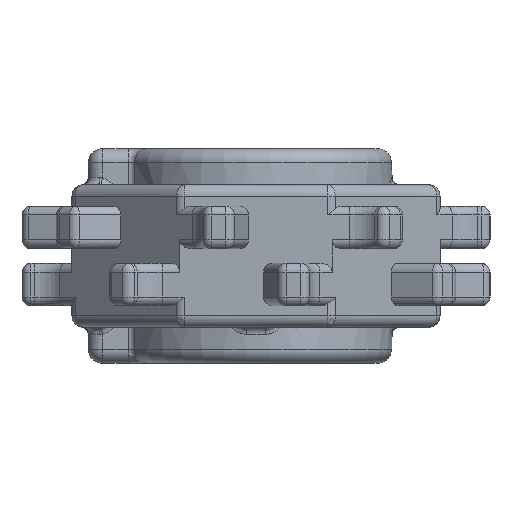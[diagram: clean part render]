
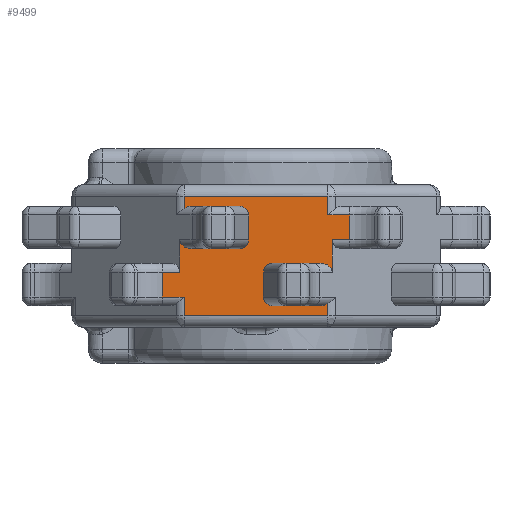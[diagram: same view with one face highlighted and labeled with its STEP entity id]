
A CAD part, left-side view. The second image highlights one B-rep face of the part: STEP entity #9499.
In plain terms, the highlighted planar face has unit normal (-1, 0, 0).
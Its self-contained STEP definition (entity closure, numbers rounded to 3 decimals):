
#8622=ELLIPSE('',#26625,1.768,1.25);
#8623=ELLIPSE('',#26626,1.314,1.25);
#8624=ELLIPSE('',#26627,1.314,1.25);
#8625=ELLIPSE('',#26628,1.768,1.25);
#8626=ELLIPSE('',#26629,1.768,1.25);
#8627=ELLIPSE('',#26630,1.314,1.25);
#8628=ELLIPSE('',#26631,1.314,1.25);
#8629=ELLIPSE('',#26632,1.768,1.25);
#9499=ADVANCED_FACE('',(#10931),#10652,.T.);
#10652=PLANE('',#26633);
#10931=FACE_OUTER_BOUND('',#12099,.T.);
#12099=EDGE_LOOP('',(#14604,#14605,#14606,#14607,#14608,#14609,#14610,#14611,
#14612,#14613,#14614,#14615,#14616,#14617,#14618,#14619,#14620,#14621,#14622,
#14623,#14624,#14625,#14626,#14627,#14628,#14629,#14630,#14631));
#14604=ORIENTED_EDGE('',*,*,#21448,.T.);
#14605=ORIENTED_EDGE('',*,*,#21449,.T.);
#14606=ORIENTED_EDGE('',*,*,#21450,.T.);
#14607=ORIENTED_EDGE('',*,*,#21451,.T.);
#14608=ORIENTED_EDGE('',*,*,#21345,.T.);
#14609=ORIENTED_EDGE('',*,*,#21452,.T.);
#14610=ORIENTED_EDGE('',*,*,#21453,.T.);
#14611=ORIENTED_EDGE('',*,*,#21454,.T.);
#14612=ORIENTED_EDGE('',*,*,#21455,.T.);
#14613=ORIENTED_EDGE('',*,*,#21456,.T.);
#14614=ORIENTED_EDGE('',*,*,#21457,.T.);
#14615=ORIENTED_EDGE('',*,*,#21458,.F.);
#14616=ORIENTED_EDGE('',*,*,#21459,.T.);
#14617=ORIENTED_EDGE('',*,*,#21447,.F.);
#14618=ORIENTED_EDGE('',*,*,#21460,.T.);
#14619=ORIENTED_EDGE('',*,*,#21461,.T.);
#14620=ORIENTED_EDGE('',*,*,#21462,.T.);
#14621=ORIENTED_EDGE('',*,*,#21463,.T.);
#14622=ORIENTED_EDGE('',*,*,#21464,.T.);
#14623=ORIENTED_EDGE('',*,*,#21465,.T.);
#14624=ORIENTED_EDGE('',*,*,#21466,.T.);
#14625=ORIENTED_EDGE('',*,*,#21467,.T.);
#14626=ORIENTED_EDGE('',*,*,#21468,.T.);
#14627=ORIENTED_EDGE('',*,*,#21469,.T.);
#14628=ORIENTED_EDGE('',*,*,#21470,.T.);
#14629=ORIENTED_EDGE('',*,*,#21471,.F.);
#14630=ORIENTED_EDGE('',*,*,#21472,.T.);
#14631=ORIENTED_EDGE('',*,*,#21473,.T.);
#19833=VERTEX_POINT('',#34222);
#19834=VERTEX_POINT('',#34273);
#19895=VERTEX_POINT('',#34745);
#19918=VERTEX_POINT('',#34792);
#19919=VERTEX_POINT('',#34796);
#19920=VERTEX_POINT('',#34797);
#19921=VERTEX_POINT('',#34799);
#19922=VERTEX_POINT('',#34801);
#19923=VERTEX_POINT('',#34804);
#19924=VERTEX_POINT('',#34806);
#19925=VERTEX_POINT('',#34808);
#19926=VERTEX_POINT('',#34810);
#19927=VERTEX_POINT('',#34812);
#19928=VERTEX_POINT('',#34814);
#19929=VERTEX_POINT('',#34816);
#19930=VERTEX_POINT('',#34819);
#19931=VERTEX_POINT('',#34821);
#19932=VERTEX_POINT('',#34823);
#19933=VERTEX_POINT('',#34825);
#19934=VERTEX_POINT('',#34827);
#19935=VERTEX_POINT('',#34829);
#19936=VERTEX_POINT('',#34831);
#19937=VERTEX_POINT('',#34833);
#19938=VERTEX_POINT('',#34835);
#19939=VERTEX_POINT('',#34837);
#19940=VERTEX_POINT('',#34839);
#19941=VERTEX_POINT('',#34841);
#19942=VERTEX_POINT('',#34843);
#21345=EDGE_CURVE('',#19834,#19833,#24000,.T.);
#21447=EDGE_CURVE('',#19918,#19895,#24060,.T.);
#21448=EDGE_CURVE('',#19919,#19920,#24061,.T.);
#21449=EDGE_CURVE('',#19920,#19921,#24062,.T.);
#21450=EDGE_CURVE('',#19921,#19922,#24063,.T.);
#21451=EDGE_CURVE('',#19922,#19834,#24064,.T.);
#21452=EDGE_CURVE('',#19833,#19923,#24065,.T.);
#21453=EDGE_CURVE('',#19923,#19924,#8622,.T.);
#21454=EDGE_CURVE('',#19924,#19925,#24066,.T.);
#21455=EDGE_CURVE('',#19925,#19926,#8623,.T.);
#21456=EDGE_CURVE('',#19926,#19927,#24067,.T.);
#21457=EDGE_CURVE('',#19927,#19928,#8624,.T.);
#21458=EDGE_CURVE('',#19929,#19928,#24068,.T.);
#21459=EDGE_CURVE('',#19929,#19895,#8625,.T.);
#21460=EDGE_CURVE('',#19918,#19930,#24069,.T.);
#21461=EDGE_CURVE('',#19930,#19931,#24070,.T.);
#21462=EDGE_CURVE('',#19931,#19932,#24071,.T.);
#21463=EDGE_CURVE('',#19932,#19933,#24072,.T.);
#21464=EDGE_CURVE('',#19933,#19934,#24073,.T.);
#21465=EDGE_CURVE('',#19934,#19935,#24074,.T.);
#21466=EDGE_CURVE('',#19935,#19936,#8626,.T.);
#21467=EDGE_CURVE('',#19936,#19937,#24075,.T.);
#21468=EDGE_CURVE('',#19937,#19938,#8627,.T.);
#21469=EDGE_CURVE('',#19938,#19939,#24076,.T.);
#21470=EDGE_CURVE('',#19939,#19940,#8628,.T.);
#21471=EDGE_CURVE('',#19941,#19940,#24077,.T.);
#21472=EDGE_CURVE('',#19941,#19942,#8629,.T.);
#21473=EDGE_CURVE('',#19942,#19919,#24078,.T.);
#24000=LINE('',#34272,#25300);
#24060=LINE('',#34793,#25360);
#24061=LINE('',#34795,#25361);
#24062=LINE('',#34798,#25362);
#24063=LINE('',#34800,#25363);
#24064=LINE('',#34802,#25364);
#24065=LINE('',#34803,#25365);
#24066=LINE('',#34807,#25366);
#24067=LINE('',#34811,#25367);
#24068=LINE('',#34815,#25368);
#24069=LINE('',#34818,#25369);
#24070=LINE('',#34820,#25370);
#24071=LINE('',#34822,#25371);
#24072=LINE('',#34824,#25372);
#24073=LINE('',#34826,#25373);
#24074=LINE('',#34828,#25374);
#24075=LINE('',#34832,#25375);
#24076=LINE('',#34836,#25376);
#24077=LINE('',#34840,#25377);
#24078=LINE('',#34844,#25378);
#25300=VECTOR('',#28637,1.);
#25360=VECTOR('',#28763,1.);
#25361=VECTOR('',#28766,1.);
#25362=VECTOR('',#28767,1.);
#25363=VECTOR('',#28768,1.);
#25364=VECTOR('',#28769,1.);
#25365=VECTOR('',#28770,1.);
#25366=VECTOR('',#28773,1.);
#25367=VECTOR('',#28776,1.);
#25368=VECTOR('',#28779,1.);
#25369=VECTOR('',#28782,1.);
#25370=VECTOR('',#28783,1.);
#25371=VECTOR('',#28784,1.);
#25372=VECTOR('',#28785,1.);
#25373=VECTOR('',#28786,1.);
#25374=VECTOR('',#28787,1.);
#25375=VECTOR('',#28790,1.);
#25376=VECTOR('',#28793,1.);
#25377=VECTOR('',#28796,1.);
#25378=VECTOR('',#28799,1.);
#26625=AXIS2_PLACEMENT_3D('',#34805,#28771,#28772);
#26626=AXIS2_PLACEMENT_3D('',#34809,#28774,#28775);
#26627=AXIS2_PLACEMENT_3D('',#34813,#28777,#28778);
#26628=AXIS2_PLACEMENT_3D('',#34817,#28780,#28781);
#26629=AXIS2_PLACEMENT_3D('',#34830,#28788,#28789);
#26630=AXIS2_PLACEMENT_3D('',#34834,#28791,#28792);
#26631=AXIS2_PLACEMENT_3D('',#34838,#28794,#28795);
#26632=AXIS2_PLACEMENT_3D('',#34842,#28797,#28798);
#26633=AXIS2_PLACEMENT_3D('',#34845,#28800,#28801);
#28637=DIRECTION('',(0.,1.,0.));
#28763=DIRECTION('',(0.,0.,1.));
#28766=DIRECTION('',(0.,-1.,0.));
#28767=DIRECTION('',(0.,0.,1.));
#28768=DIRECTION('',(0.,1.,0.));
#28769=DIRECTION('',(0.,0.,1.));
#28770=DIRECTION('',(0.,0.,-1.));
#28771=DIRECTION('',(1.,0.,0.));
#28772=DIRECTION('',(0.,-1.,0.));
#28773=DIRECTION('',(0.,-1.,0.));
#28774=DIRECTION('',(1.,0.,0.));
#28775=DIRECTION('',(0.,-1.,0.));
#28776=DIRECTION('',(0.,0.,-1.));
#28777=DIRECTION('',(1.,0.,0.));
#28778=DIRECTION('',(0.,1.,0.));
#28779=DIRECTION('',(0.,-1.,0.));
#28780=DIRECTION('',(1.,0.,0.));
#28781=DIRECTION('',(0.,1.,0.));
#28782=DIRECTION('',(0.,1.,0.));
#28783=DIRECTION('',(0.,0.,-1.));
#28784=DIRECTION('',(0.,-1.,0.));
#28785=DIRECTION('',(0.,0.,-1.));
#28786=DIRECTION('',(0.,-1.,0.));
#28787=DIRECTION('',(0.,0.,1.));
#28788=DIRECTION('',(1.,0.,0.));
#28789=DIRECTION('',(0.,1.,0.));
#28790=DIRECTION('',(0.,1.,0.));
#28791=DIRECTION('',(1.,0.,0.));
#28792=DIRECTION('',(0.,1.,0.));
#28793=DIRECTION('',(0.,0.,1.));
#28794=DIRECTION('',(1.,0.,0.));
#28795=DIRECTION('',(0.,-1.,0.));
#28796=DIRECTION('',(0.,1.,0.));
#28797=DIRECTION('',(1.,0.,0.));
#28798=DIRECTION('',(0.,-1.,0.));
#28799=DIRECTION('',(0.,0.,1.));
#28800=DIRECTION('',(-1.,0.,0.));
#28801=DIRECTION('',(0.,-1.,0.));
#34222=CARTESIAN_POINT('',(-25.8,10.065,8.4));
#34272=CARTESIAN_POINT('',(-25.8,10.687,8.4));
#34273=CARTESIAN_POINT('',(-25.8,-10.065,8.4));
#34745=CARTESIAN_POINT('',(-25.8,10.687,2.25));
#34792=CARTESIAN_POINT('',(-25.8,10.687,-2.25));
#34793=CARTESIAN_POINT('',(-25.8,10.687,-2.25));
#34795=CARTESIAN_POINT('',(-25.8,-10.687,2.25));
#34796=CARTESIAN_POINT('',(-25.8,-10.687,2.25));
#34797=CARTESIAN_POINT('',(-25.8,-13.122,2.25));
#34798=CARTESIAN_POINT('',(-25.8,-13.122,2.25));
#34799=CARTESIAN_POINT('',(-25.8,-13.122,5.75));
#34800=CARTESIAN_POINT('',(-25.8,-13.122,5.75));
#34801=CARTESIAN_POINT('',(-25.8,-10.065,5.75));
#34802=CARTESIAN_POINT('',(-25.8,-10.065,0.));
#34803=CARTESIAN_POINT('',(-25.8,10.065,0.));
#34804=CARTESIAN_POINT('',(-25.8,10.065,6.701));
#34805=CARTESIAN_POINT('',(-25.8,8.919,5.75));
#34806=CARTESIAN_POINT('',(-25.8,8.919,7.));
#34807=CARTESIAN_POINT('',(-25.8,8.919,7.));
#34808=CARTESIAN_POINT('',(-25.8,2.364,7.));
#34809=CARTESIAN_POINT('',(-25.8,2.364,5.75));
#34810=CARTESIAN_POINT('',(-25.8,1.05,5.75));
#34811=CARTESIAN_POINT('',(-25.8,1.05,5.75));
#34812=CARTESIAN_POINT('',(-25.8,1.05,2.25));
#34813=CARTESIAN_POINT('',(-25.8,2.364,2.25));
#34814=CARTESIAN_POINT('',(-25.8,2.364,1.));
#34815=CARTESIAN_POINT('',(-25.8,8.919,1.));
#34816=CARTESIAN_POINT('',(-25.8,8.919,1.));
#34817=CARTESIAN_POINT('',(-25.8,8.919,2.25));
#34818=CARTESIAN_POINT('',(-25.8,10.687,-2.25));
#34819=CARTESIAN_POINT('',(-25.8,13.122,-2.25));
#34820=CARTESIAN_POINT('',(-25.8,13.122,-2.25));
#34821=CARTESIAN_POINT('',(-25.8,13.122,-5.75));
#34822=CARTESIAN_POINT('',(-25.8,13.122,-5.75));
#34823=CARTESIAN_POINT('',(-25.8,10.065,-5.75));
#34824=CARTESIAN_POINT('',(-25.8,10.065,0.));
#34825=CARTESIAN_POINT('',(-25.8,10.065,-8.4));
#34826=CARTESIAN_POINT('',(-25.8,10.687,-8.4));
#34827=CARTESIAN_POINT('',(-25.8,-10.065,-8.4));
#34828=CARTESIAN_POINT('',(-25.8,-10.065,0.));
#34829=CARTESIAN_POINT('',(-25.8,-10.065,-6.701));
#34830=CARTESIAN_POINT('',(-25.8,-8.919,-5.75));
#34831=CARTESIAN_POINT('',(-25.8,-8.919,-7.));
#34832=CARTESIAN_POINT('',(-25.8,-8.919,-7.));
#34833=CARTESIAN_POINT('',(-25.8,-2.364,-7.));
#34834=CARTESIAN_POINT('',(-25.8,-2.364,-5.75));
#34835=CARTESIAN_POINT('',(-25.8,-1.05,-5.75));
#34836=CARTESIAN_POINT('',(-25.8,-1.05,-5.75));
#34837=CARTESIAN_POINT('',(-25.8,-1.05,-2.25));
#34838=CARTESIAN_POINT('',(-25.8,-2.364,-2.25));
#34839=CARTESIAN_POINT('',(-25.8,-2.364,-1.));
#34840=CARTESIAN_POINT('',(-25.8,-8.919,-1.));
#34841=CARTESIAN_POINT('',(-25.8,-8.919,-1.));
#34842=CARTESIAN_POINT('',(-25.8,-8.919,-2.25));
#34843=CARTESIAN_POINT('',(-25.8,-10.687,-2.25));
#34844=CARTESIAN_POINT('',(-25.8,-10.687,-2.25));
#34845=CARTESIAN_POINT('',(-25.8,10.687,0.));
